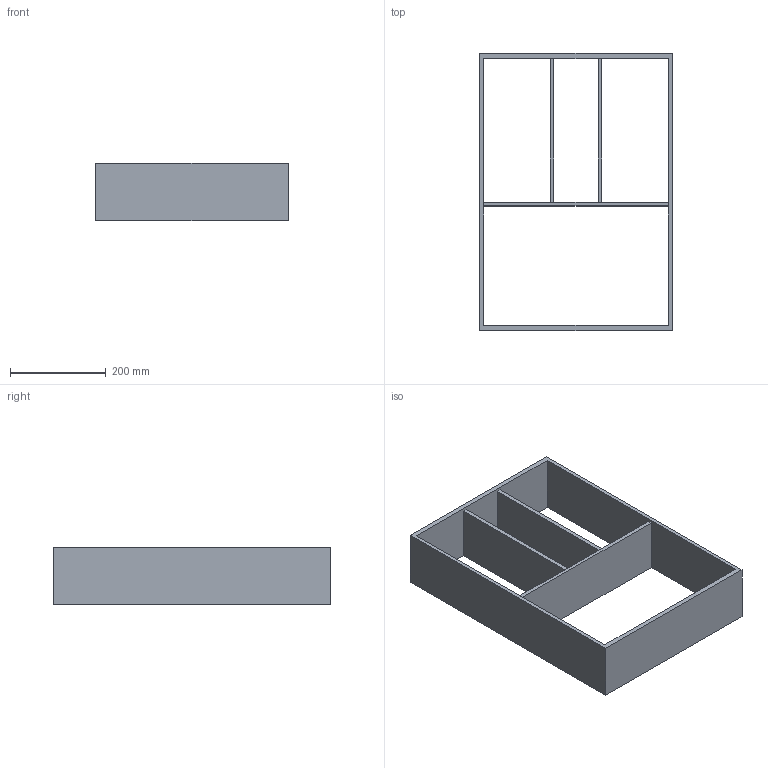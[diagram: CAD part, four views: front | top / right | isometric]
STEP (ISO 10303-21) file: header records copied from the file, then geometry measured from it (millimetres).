
FILE_DESCRIPTION (( 'STEP AP214' ), '1' );
FILE_NAME ('Vario Multi H120 NL600_B500_19 mm_Alu-Buche.step', '2010-10-08T09:47:44', ( 'grass' ), ( '' ), 'SwSTEP 2.0', 'SolidWorks 2010', '' );
FILE_SCHEMA (( 'AUTOMOTIVE_DESIGN' ));
Length unit declared in the file: millimetre
Products named in the file (1): Vario Multi H120 NL600_B500_19 mm_Alu-Buche
Bounding box: 402 x 579 x 120 mm (x, y, z)
Volume: 3029364.4 mm3; surface area: 732232.2 mm2
Topology: 1 solids, 1 shells, 22 faces, 60 edges, 40 vertices
Faces by surface type: plane 22
Entity records: 734 total; most frequent: CARTESIAN_POINT 123, ORIENTED_EDGE 120, DIRECTION 106, LINE 60, VECTOR 60, EDGE_CURVE 60, VERTEX_POINT 40, EDGE_LOOP 30
